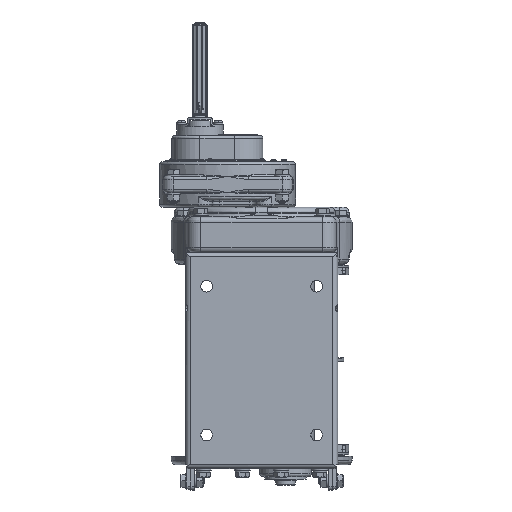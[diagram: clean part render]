
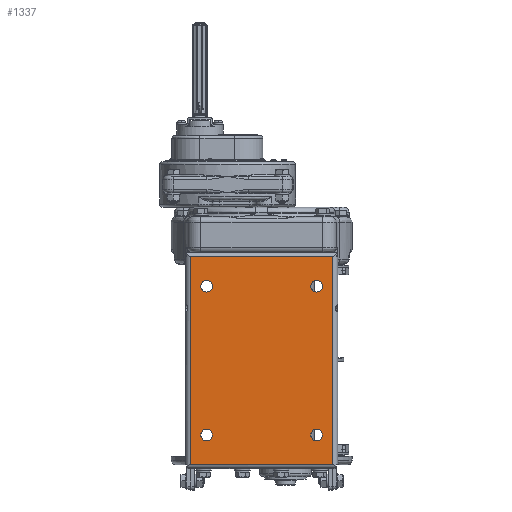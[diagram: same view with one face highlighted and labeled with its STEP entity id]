
A CAD part, front view. The second image highlights one B-rep face of the part: STEP entity #1337.
In plain terms, the highlighted planar face has unit normal (0, -1, 0).
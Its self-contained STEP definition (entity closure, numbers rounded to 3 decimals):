
#1337=ADVANCED_FACE('',(#15240,#15241,#15242,#15243,#15244),#15239,.F.);
#15239=PLANE('',#49958);
#15240=FACE_OUTER_BOUND('',#49959,.T.);
#15241=FACE_BOUND('',#49960,.T.);
#15242=FACE_BOUND('',#49961,.T.);
#15243=FACE_BOUND('',#49962,.T.);
#15244=FACE_BOUND('',#49963,.T.);
#49955=CARTESIAN_POINT('',(-171.432,-278.182,-566.035));
#49956=DIRECTION('',(0.,1.,0.));
#49957=DIRECTION('',(1.,0.,0.));
#49958=AXIS2_PLACEMENT_3D('',#49955,#49956,#49957);
#49959=EDGE_LOOP('',(#72053,#72054,#72055,#72056));
#49960=EDGE_LOOP('',(#72057,#72058,#72059));
#49961=EDGE_LOOP('',(#72060,#72061,#72062));
#49962=EDGE_LOOP('',(#72063,#72064,#72065));
#49963=EDGE_LOOP('',(#72066,#72067,#72068));
#72053=ORIENTED_EDGE('',*,*,#87284,.T.);
#72054=ORIENTED_EDGE('',*,*,#87287,.T.);
#72055=ORIENTED_EDGE('',*,*,#84898,.F.);
#72056=ORIENTED_EDGE('',*,*,#87307,.F.);
#72057=ORIENTED_EDGE('',*,*,#87308,.T.);
#72058=ORIENTED_EDGE('',*,*,#87309,.T.);
#72059=ORIENTED_EDGE('',*,*,#87310,.T.);
#72060=ORIENTED_EDGE('',*,*,#87311,.T.);
#72061=ORIENTED_EDGE('',*,*,#87312,.T.);
#72062=ORIENTED_EDGE('',*,*,#87313,.T.);
#72063=ORIENTED_EDGE('',*,*,#87314,.T.);
#72064=ORIENTED_EDGE('',*,*,#87315,.T.);
#72065=ORIENTED_EDGE('',*,*,#87316,.T.);
#72066=ORIENTED_EDGE('',*,*,#87317,.T.);
#72067=ORIENTED_EDGE('',*,*,#87318,.T.);
#72068=ORIENTED_EDGE('',*,*,#87319,.T.);
#84898=EDGE_CURVE('',#102258,#102265,#102266,.T.);
#87284=EDGE_CURVE('',#118297,#118290,#118298,.T.);
#87287=EDGE_CURVE('',#118290,#102265,#118316,.T.);
#87307=EDGE_CURVE('',#118297,#102258,#118449,.T.);
#87308=EDGE_CURVE('',#118455,#118456,#118457,.T.);
#87309=EDGE_CURVE('',#118456,#118463,#118464,.T.);
#87310=EDGE_CURVE('',#118463,#118455,#118470,.T.);
#87311=EDGE_CURVE('',#118476,#118477,#118478,.T.);
#87312=EDGE_CURVE('',#118477,#118484,#118485,.T.);
#87313=EDGE_CURVE('',#118484,#118476,#118491,.T.);
#87314=EDGE_CURVE('',#118497,#118498,#118499,.T.);
#87315=EDGE_CURVE('',#118498,#118505,#118506,.T.);
#87316=EDGE_CURVE('',#118505,#118497,#118512,.T.);
#87317=EDGE_CURVE('',#118518,#118519,#118520,.T.);
#87318=EDGE_CURVE('',#118519,#118526,#118527,.T.);
#87319=EDGE_CURVE('',#118526,#118518,#118533,.T.);
#102258=VERTEX_POINT('',#156811);
#102265=VERTEX_POINT('',#156816);
#102266=LINE('',#156817,#156818);
#118290=VERTEX_POINT('',#169483);
#118297=VERTEX_POINT('',#169488);
#118298=LINE('',#169489,#169490);
#118316=LINE('',#169500,#169501);
#118449=LINE('',#169585,#169586);
#118455=VERTEX_POINT('',#169588);
#118456=VERTEX_POINT('',#169589);
#118457=CIRCLE('',#169593,9.);
#118463=VERTEX_POINT('',#169594);
#118464=CIRCLE('',#169598,9.);
#118470=CIRCLE('',#169602,9.);
#118476=VERTEX_POINT('',#169603);
#118477=VERTEX_POINT('',#169604);
#118478=CIRCLE('',#169608,9.);
#118484=VERTEX_POINT('',#169609);
#118485=CIRCLE('',#169613,9.);
#118491=CIRCLE('',#169617,9.);
#118497=VERTEX_POINT('',#169618);
#118498=VERTEX_POINT('',#169619);
#118499=CIRCLE('',#169623,9.);
#118505=VERTEX_POINT('',#169624);
#118506=CIRCLE('',#169628,9.);
#118512=CIRCLE('',#169632,9.);
#118518=VERTEX_POINT('',#169633);
#118519=VERTEX_POINT('',#169634);
#118520=CIRCLE('',#169638,9.);
#118526=VERTEX_POINT('',#169639);
#118527=CIRCLE('',#169643,9.);
#118533=CIRCLE('',#169647,9.);
#156811=CARTESIAN_POINT('',(-161.432,-278.182,-898.035));
#156816=CARTESIAN_POINT('',(-161.432,-278.182,-576.035));
#156817=CARTESIAN_POINT('',(-161.432,-278.182,-898.035));
#156818=VECTOR('',#156819,322.);
#156819=DIRECTION('',(0.,0.,1.));
#169483=CARTESIAN_POINT('',(57.568,-278.182,-576.035));
#169488=CARTESIAN_POINT('',(57.568,-278.182,-898.035));
#169489=CARTESIAN_POINT('',(57.568,-278.182,-898.035));
#169490=VECTOR('',#169491,322.);
#169491=DIRECTION('',(0.,0.,1.));
#169500=CARTESIAN_POINT('',(57.568,-278.182,-576.035));
#169501=VECTOR('',#169502,219.);
#169502=DIRECTION('',(-1.,0.,0.));
#169585=CARTESIAN_POINT('',(57.568,-278.182,-898.035));
#169586=VECTOR('',#169587,219.);
#169587=DIRECTION('',(-1.,0.,0.));
#169588=CARTESIAN_POINT('',(42.068,-278.182,-852.035));
#169589=CARTESIAN_POINT('',(33.068,-278.182,-861.035));
#169590=CARTESIAN_POINT('',(33.068,-278.182,-852.035));
#169591=DIRECTION('',(0.,1.,0.));
#169592=DIRECTION('',(1.,0.,0.));
#169593=AXIS2_PLACEMENT_3D('',#169590,#169591,#169592);
#169594=CARTESIAN_POINT('',(33.067,-278.182,-843.035));
#169595=CARTESIAN_POINT('',(33.068,-278.182,-852.035));
#169596=DIRECTION('',(0.,1.,0.));
#169597=DIRECTION('',(1.,0.,0.));
#169598=AXIS2_PLACEMENT_3D('',#169595,#169596,#169597);
#169599=CARTESIAN_POINT('',(33.068,-278.182,-852.035));
#169600=DIRECTION('',(0.,1.,0.));
#169601=DIRECTION('',(1.,0.,0.));
#169602=AXIS2_PLACEMENT_3D('',#169599,#169600,#169601);
#169603=CARTESIAN_POINT('',(-127.932,-278.182,-852.035));
#169604=CARTESIAN_POINT('',(-136.932,-278.182,-861.035));
#169605=CARTESIAN_POINT('',(-136.932,-278.182,-852.035));
#169606=DIRECTION('',(0.,1.,0.));
#169607=DIRECTION('',(1.,0.,0.));
#169608=AXIS2_PLACEMENT_3D('',#169605,#169606,#169607);
#169609=CARTESIAN_POINT('',(-136.933,-278.182,-843.035));
#169610=CARTESIAN_POINT('',(-136.932,-278.182,-852.035));
#169611=DIRECTION('',(0.,1.,0.));
#169612=DIRECTION('',(1.,0.,0.));
#169613=AXIS2_PLACEMENT_3D('',#169610,#169611,#169612);
#169614=CARTESIAN_POINT('',(-136.932,-278.182,-852.035));
#169615=DIRECTION('',(0.,1.,0.));
#169616=DIRECTION('',(1.,0.,0.));
#169617=AXIS2_PLACEMENT_3D('',#169614,#169615,#169616);
#169618=CARTESIAN_POINT('',(-127.932,-278.182,-622.035));
#169619=CARTESIAN_POINT('',(-136.932,-278.182,-631.035));
#169620=CARTESIAN_POINT('',(-136.932,-278.182,-622.035));
#169621=DIRECTION('',(0.,1.,0.));
#169622=DIRECTION('',(1.,0.,0.));
#169623=AXIS2_PLACEMENT_3D('',#169620,#169621,#169622);
#169624=CARTESIAN_POINT('',(-136.933,-278.182,-613.035));
#169625=CARTESIAN_POINT('',(-136.932,-278.182,-622.035));
#169626=DIRECTION('',(0.,1.,0.));
#169627=DIRECTION('',(1.,0.,0.));
#169628=AXIS2_PLACEMENT_3D('',#169625,#169626,#169627);
#169629=CARTESIAN_POINT('',(-136.932,-278.182,-622.035));
#169630=DIRECTION('',(0.,1.,0.));
#169631=DIRECTION('',(1.,0.,0.));
#169632=AXIS2_PLACEMENT_3D('',#169629,#169630,#169631);
#169633=CARTESIAN_POINT('',(42.068,-278.182,-622.035));
#169634=CARTESIAN_POINT('',(33.068,-278.182,-631.035));
#169635=CARTESIAN_POINT('',(33.068,-278.182,-622.035));
#169636=DIRECTION('',(0.,1.,0.));
#169637=DIRECTION('',(1.,0.,0.));
#169638=AXIS2_PLACEMENT_3D('',#169635,#169636,#169637);
#169639=CARTESIAN_POINT('',(33.067,-278.182,-613.035));
#169640=CARTESIAN_POINT('',(33.068,-278.182,-622.035));
#169641=DIRECTION('',(0.,1.,0.));
#169642=DIRECTION('',(1.,0.,0.));
#169643=AXIS2_PLACEMENT_3D('',#169640,#169641,#169642);
#169644=CARTESIAN_POINT('',(33.068,-278.182,-622.035));
#169645=DIRECTION('',(0.,1.,0.));
#169646=DIRECTION('',(1.,0.,0.));
#169647=AXIS2_PLACEMENT_3D('',#169644,#169645,#169646);
